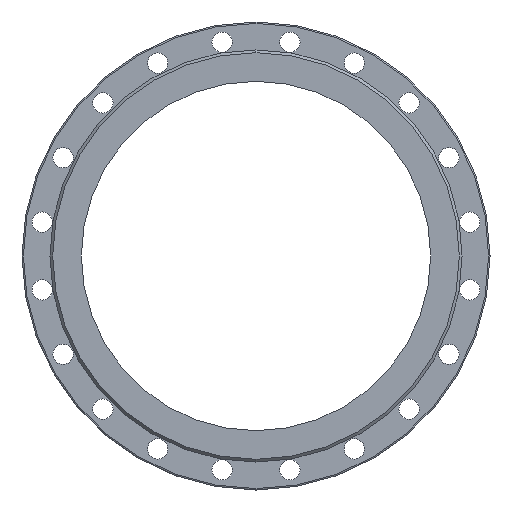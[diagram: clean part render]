
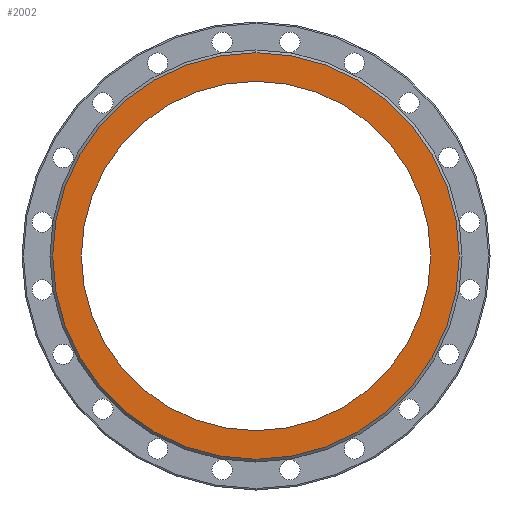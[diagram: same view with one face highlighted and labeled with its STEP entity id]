
A CAD part, left-side view. The second image highlights one B-rep face of the part: STEP entity #2002.
In plain terms, the highlighted planar face has unit normal (-1, 0, 0).
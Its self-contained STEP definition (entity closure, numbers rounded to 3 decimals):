
#19 = PLANE ( 'NONE',  #1929 ) ;
#564 = VERTEX_POINT ( 'NONE', #3140 ) ;
#604 = DIRECTION ( 'NONE',  ( -1., 0., 0. ) ) ;
#797 = ORIENTED_EDGE ( 'NONE', *, *, #1798, .T. ) ;
#859 = CIRCLE ( 'NONE', #5776, 250. ) ;
#901 = CARTESIAN_POINT ( 'NONE',  ( -350., 0., 291. ) ) ;
#918 = EDGE_CURVE ( 'Defeatured_0_2+Defeatured_0_3+Defeatured_0_3+Defeatured_0_3', #564, #1036, #5763, .T. ) ;
#948 = CIRCLE ( 'NONE', #4903, 291. ) ;
#1036 = VERTEX_POINT ( 'NONE', #2671 ) ;
#1037 = ORIENTED_EDGE ( 'NONE', *, *, #2438, .F. ) ;
#1222 = CARTESIAN_POINT ( 'NONE',  ( -350., 0., 0. ) ) ;
#1319 = EDGE_LOOP ( 'NONE', ( #1494, #1037 ) ) ;
#1476 = DIRECTION ( 'NONE',  ( 1., 0., 0. ) ) ;
#1494 = ORIENTED_EDGE ( 'NONE', *, *, #918, .F. ) ;
#1798 = EDGE_CURVE ( 'Defeatured_0_3+Defeatured_0_4+Defeatured_0_4+Defeatured_0_4', #3905, #4278, #948, .T. ) ;
#1929 = AXIS2_PLACEMENT_3D ( 'NONE', #5034, #1476, #4125 ) ;
#2002 = ADVANCED_FACE ( 'Defeatured_0_3', ( #3585, #5429 ), #19, .F. ) ;
#2363 = EDGE_CURVE ( 'Defeatured_0_3+Defeatured_0_4+Defeatured_0_4+Defeatured_0_4', #4278, #3905, #3560, .T. ) ;
#2438 = EDGE_CURVE ( 'Defeatured_0_2+Defeatured_0_3+Defeatured_0_3+Defeatured_0_3', #1036, #564, #859, .T. ) ;
#2636 = CARTESIAN_POINT ( 'NONE',  ( -350., 0., 0. ) ) ;
#2671 = CARTESIAN_POINT ( 'NONE',  ( -350., 0., -250. ) ) ;
#2698 = AXIS2_PLACEMENT_3D ( 'NONE', #4485, #3101, #3584 ) ;
#3012 = CARTESIAN_POINT ( 'NONE',  ( -350., 0., 0. ) ) ;
#3060 = DIRECTION ( 'NONE',  ( 0., 0., 1. ) ) ;
#3101 = DIRECTION ( 'NONE',  ( -1., 0., 0. ) ) ;
#3140 = CARTESIAN_POINT ( 'NONE',  ( -350., 0., 250. ) ) ;
#3288 = CARTESIAN_POINT ( 'NONE',  ( -350., 0., -291. ) ) ;
#3560 = CIRCLE ( 'NONE', #5972, 291. ) ;
#3584 = DIRECTION ( 'NONE',  ( 0., 0., 1. ) ) ;
#3585 = FACE_BOUND ( 'NONE', #1319, .T. ) ;
#3905 = VERTEX_POINT ( 'NONE', #3288 ) ;
#4125 = DIRECTION ( 'NONE',  ( 0., 0., -1. ) ) ;
#4278 = VERTEX_POINT ( 'NONE', #901 ) ;
#4444 = DIRECTION ( 'NONE',  ( -1., 0., 0. ) ) ;
#4485 = CARTESIAN_POINT ( 'NONE',  ( -350., 0., 0. ) ) ;
#4771 = ORIENTED_EDGE ( 'NONE', *, *, #2363, .T. ) ;
#4903 = AXIS2_PLACEMENT_3D ( 'NONE', #3012, #604, #5707 ) ;
#4945 = EDGE_LOOP ( 'NONE', ( #797, #4771 ) ) ;
#5034 = CARTESIAN_POINT ( 'NONE',  ( -350., 250., 0. ) ) ;
#5429 = FACE_OUTER_BOUND ( 'NONE', #4945, .T. ) ;
#5707 = DIRECTION ( 'NONE',  ( 0., 0., 1. ) ) ;
#5763 = CIRCLE ( 'NONE', #2698, 250. ) ;
#5776 = AXIS2_PLACEMENT_3D ( 'NONE', #1222, #5841, #3060 ) ;
#5841 = DIRECTION ( 'NONE',  ( -1., 0., 0. ) ) ;
#5867 = DIRECTION ( 'NONE',  ( 0., 0., 1. ) ) ;
#5972 = AXIS2_PLACEMENT_3D ( 'NONE', #2636, #4444, #5867 ) ;
